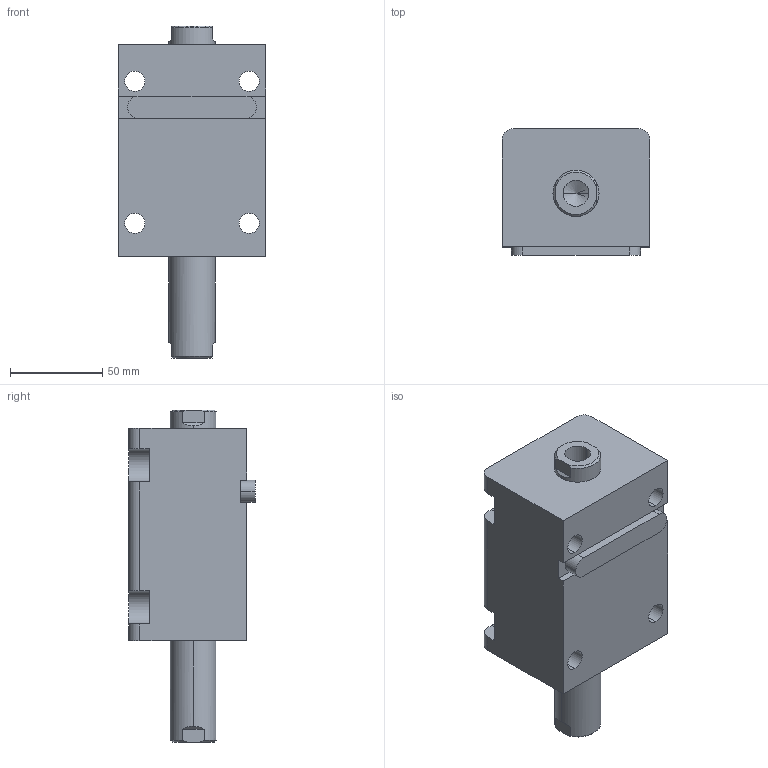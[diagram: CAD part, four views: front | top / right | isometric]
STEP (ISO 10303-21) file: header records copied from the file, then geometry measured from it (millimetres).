
FILE_DESCRIPTION (( 'STEP AP203' ), '1' );
FILE_NAME ('HTB-LW40-45N.STEP', '2019-10-09T07:55:41', ( '微软用户' ), ( '微软中国' ), 'SwSTEP 2.0', 'SolidWorks 2012', '' );
FILE_SCHEMA (( 'CONFIG_CONTROL_DESIGN' ));
Length unit declared in the file: millimetre
Products named in the file (4): HTB-LA40-瑩; HTB-LW40-45掛极; HTB-LW40-45N活塞杆; HTB-LW40-45N
Assembly tree (3 placements, depth 2):
  HTB-LW40-45N
    HTB-LW40-45掛极
    HTB-LW40-45N活塞杆
    HTB-LA40-瑩
Bounding box: 80 x 68.5 x 180 mm (x, y, z)
Volume: 545439 mm3; surface area: 86449.7 mm2
Topology: 3 solids, 3 shells, 105 faces, 261 edges, 168 vertices
Faces by surface type: plane 44, cylinder 41, cone 12, torus 8
Entity records: 3567 total; most frequent: CARTESIAN_POINT 588, DIRECTION 573, ORIENTED_EDGE 514, EDGE_CURVE 257, AXIS2_PLACEMENT_3D 221, VERTEX_POINT 168, VECTOR 131, LINE 131
